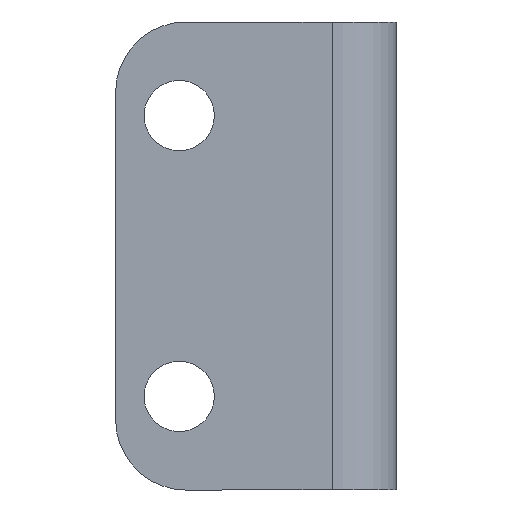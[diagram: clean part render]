
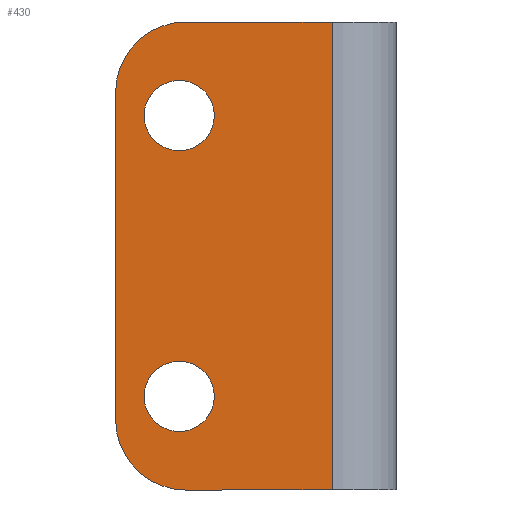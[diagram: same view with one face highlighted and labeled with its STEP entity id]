
A CAD part, front view. The second image highlights one B-rep face of the part: STEP entity #430.
In plain terms, the highlighted planar face has unit normal (0, -1, 0).
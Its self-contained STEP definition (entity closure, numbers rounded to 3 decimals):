
#1 = VERTEX_POINT ( 'NONE', #460 ) ;
#11 = CARTESIAN_POINT ( 'NONE',  ( -7.73, -2.414, 14. ) ) ;
#15 = VECTOR ( 'NONE', #163, 1000. ) ;
#49 = VERTEX_POINT ( 'NONE', #453 ) ;
#57 = EDGE_CURVE ( 'NONE', #250, #660, #173, .T. ) ;
#70 = ORIENTED_EDGE ( 'NONE', *, *, #57, .F. ) ;
#71 = DIRECTION ( 'NONE',  ( 0., 1., 0. ) ) ;
#75 = EDGE_CURVE ( 'NONE', #539, #250, #576, .T. ) ;
#78 = DIRECTION ( 'NONE',  ( 0., 1., 0. ) ) ;
#81 = CIRCLE ( 'NONE', #690, 6. ) ;
#83 = LINE ( 'NONE', #661, #508 ) ;
#84 = DIRECTION ( 'NONE',  ( 0., 0., 1. ) ) ;
#85 = EDGE_LOOP ( 'NONE', ( #317, #567 ) ) ;
#96 = FACE_BOUND ( 'NONE', #299, .T. ) ;
#99 = ORIENTED_EDGE ( 'NONE', *, *, #126, .F. ) ;
#110 = CARTESIAN_POINT ( 'NONE',  ( -1.73, -2.414, -14. ) ) ;
#113 = VERTEX_POINT ( 'NONE', #354 ) ;
#126 = EDGE_CURVE ( 'NONE', #483, #539, #416, .T. ) ;
#130 = VECTOR ( 'NONE', #84, 1000. ) ;
#135 = DIRECTION ( 'NONE',  ( 1., 0., 0. ) ) ;
#141 = VECTOR ( 'NONE', #360, 1000. ) ;
#147 = ORIENTED_EDGE ( 'NONE', *, *, #726, .T. ) ;
#149 = DIRECTION ( 'NONE',  ( 0., 1., 0. ) ) ;
#163 = DIRECTION ( 'NONE',  ( -1., 0., 0. ) ) ;
#173 = LINE ( 'NONE', #289, #141 ) ;
#217 = ORIENTED_EDGE ( 'NONE', *, *, #473, .T. ) ;
#220 = DIRECTION ( 'NONE',  ( 0., 1., 0. ) ) ;
#231 = ORIENTED_EDGE ( 'NONE', *, *, #753, .F. ) ;
#240 = AXIS2_PLACEMENT_3D ( 'NONE', #110, #749, #351 ) ;
#250 = VERTEX_POINT ( 'NONE', #436 ) ;
#254 = CIRCLE ( 'NONE', #667, 3. ) ;
#269 = AXIS2_PLACEMENT_3D ( 'NONE', #389, #723, #511 ) ;
#275 = CARTESIAN_POINT ( 'NONE',  ( -1.73, -2.414, 14. ) ) ;
#277 = EDGE_CURVE ( 'NONE', #660, #49, #81, .T. ) ;
#289 = CARTESIAN_POINT ( 'NONE',  ( -7.73, -2.414, -14. ) ) ;
#290 = VERTEX_POINT ( 'NONE', #309 ) ;
#299 = EDGE_LOOP ( 'NONE', ( #147, #217 ) ) ;
#305 = DIRECTION ( 'NONE',  ( 0., 0., 1. ) ) ;
#309 = CARTESIAN_POINT ( 'NONE',  ( -2.29, -2.414, 9. ) ) ;
#312 = DIRECTION ( 'NONE',  ( 0., 0., 1. ) ) ;
#315 = VERTEX_POINT ( 'NONE', #611 ) ;
#317 = ORIENTED_EDGE ( 'NONE', *, *, #605, .T. ) ;
#334 = FACE_OUTER_BOUND ( 'NONE', #472, .T. ) ;
#347 = EDGE_CURVE ( 'NONE', #483, #113, #620, .T. ) ;
#351 = DIRECTION ( 'NONE',  ( 0., 0., -1. ) ) ;
#354 = CARTESIAN_POINT ( 'NONE',  ( 10.77, -2.414, 20. ) ) ;
#360 = DIRECTION ( 'NONE',  ( 0., 0., 1. ) ) ;
#368 = CARTESIAN_POINT ( 'NONE',  ( -1.73, -2.414, -20. ) ) ;
#380 = EDGE_CURVE ( 'NONE', #408, #290, #691, .T. ) ;
#389 = CARTESIAN_POINT ( 'NONE',  ( -2.29, -2.414, 12. ) ) ;
#408 = VERTEX_POINT ( 'NONE', #455 ) ;
#411 = CIRCLE ( 'NONE', #542, 3. ) ;
#416 = LINE ( 'NONE', #751, #15 ) ;
#424 = AXIS2_PLACEMENT_3D ( 'NONE', #705, #220, #685 ) ;
#430 = ADVANCED_FACE ( 'NONE', ( #665, #96, #334 ), #570, .F. ) ;
#436 = CARTESIAN_POINT ( 'NONE',  ( -7.73, -2.414, -14. ) ) ;
#437 = DIRECTION ( 'NONE',  ( 0., 0., 1. ) ) ;
#441 = CARTESIAN_POINT ( 'NONE',  ( -2.29, -2.414, -12. ) ) ;
#453 = CARTESIAN_POINT ( 'NONE',  ( -1.73, -2.414, 20. ) ) ;
#455 = CARTESIAN_POINT ( 'NONE',  ( -2.29, -2.414, 15. ) ) ;
#460 = CARTESIAN_POINT ( 'NONE',  ( -2.29, -2.414, -15. ) ) ;
#472 = EDGE_LOOP ( 'NONE', ( #736, #231, #652, #70, #708, #99 ) ) ;
#473 = EDGE_CURVE ( 'NONE', #315, #1, #614, .T. ) ;
#483 = VERTEX_POINT ( 'NONE', #485 ) ;
#485 = CARTESIAN_POINT ( 'NONE',  ( 10.77, -2.414, -20. ) ) ;
#500 = CARTESIAN_POINT ( 'NONE',  ( -2.29, -2.414, 12. ) ) ;
#508 = VECTOR ( 'NONE', #135, 1000. ) ;
#511 = DIRECTION ( 'NONE',  ( 0., 0., 1. ) ) ;
#513 = DIRECTION ( 'NONE',  ( 0., 1., 0. ) ) ;
#539 = VERTEX_POINT ( 'NONE', #368 ) ;
#542 = AXIS2_PLACEMENT_3D ( 'NONE', #441, #71, #312 ) ;
#551 = CARTESIAN_POINT ( 'NONE',  ( -1.73, -2.414, 14. ) ) ;
#567 = ORIENTED_EDGE ( 'NONE', *, *, #380, .T. ) ;
#570 = PLANE ( 'NONE',  #633 ) ;
#576 = CIRCLE ( 'NONE', #240, 6. ) ;
#605 = EDGE_CURVE ( 'NONE', #290, #408, #254, .T. ) ;
#611 = CARTESIAN_POINT ( 'NONE',  ( -2.29, -2.414, -9. ) ) ;
#614 = CIRCLE ( 'NONE', #424, 3. ) ;
#615 = CARTESIAN_POINT ( 'NONE',  ( 10.77, -2.414, -20. ) ) ;
#620 = LINE ( 'NONE', #615, #130 ) ;
#633 = AXIS2_PLACEMENT_3D ( 'NONE', #275, #513, #738 ) ;
#652 = ORIENTED_EDGE ( 'NONE', *, *, #277, .F. ) ;
#660 = VERTEX_POINT ( 'NONE', #11 ) ;
#661 = CARTESIAN_POINT ( 'NONE',  ( -1.73, -2.414, 20. ) ) ;
#665 = FACE_BOUND ( 'NONE', #85, .T. ) ;
#667 = AXIS2_PLACEMENT_3D ( 'NONE', #500, #149, #437 ) ;
#685 = DIRECTION ( 'NONE',  ( 0., 0., 1. ) ) ;
#690 = AXIS2_PLACEMENT_3D ( 'NONE', #551, #78, #305 ) ;
#691 = CIRCLE ( 'NONE', #269, 3. ) ;
#705 = CARTESIAN_POINT ( 'NONE',  ( -2.29, -2.414, -12. ) ) ;
#708 = ORIENTED_EDGE ( 'NONE', *, *, #75, .F. ) ;
#723 = DIRECTION ( 'NONE',  ( 0., 1., 0. ) ) ;
#726 = EDGE_CURVE ( 'NONE', #1, #315, #411, .T. ) ;
#736 = ORIENTED_EDGE ( 'NONE', *, *, #347, .T. ) ;
#738 = DIRECTION ( 'NONE',  ( 0., 0., 1. ) ) ;
#749 = DIRECTION ( 'NONE',  ( 0., 1., 0. ) ) ;
#751 = CARTESIAN_POINT ( 'NONE',  ( -1.73, -2.414, -20. ) ) ;
#753 = EDGE_CURVE ( 'NONE', #49, #113, #83, .T. ) ;
